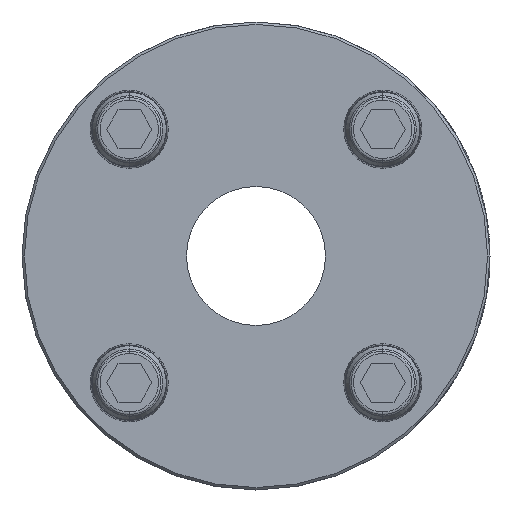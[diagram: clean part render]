
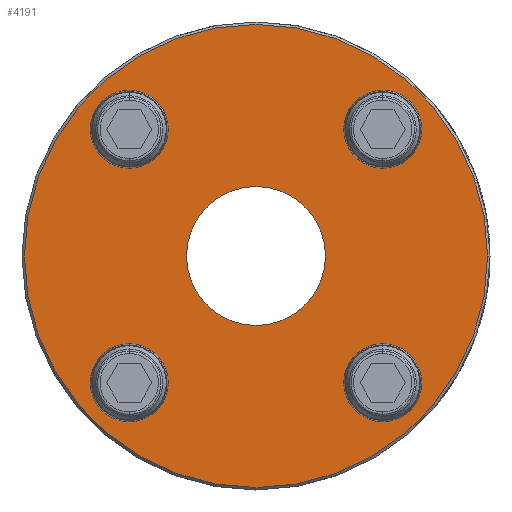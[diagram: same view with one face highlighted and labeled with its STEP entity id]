
A CAD part, front view. The second image highlights one B-rep face of the part: STEP entity #4191.
In plain terms, the highlighted planar face has unit normal (0, -1, 0).
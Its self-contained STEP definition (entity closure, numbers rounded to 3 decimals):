
#1=CARTESIAN_POINT('',(0.,0.,0.));
#2=DIRECTION('',(0.,-1.,0.));
#3=DIRECTION('',(1.,0.,0.));
#4=AXIS2_PLACEMENT_3D('',#1,#2,#3);
#6=CARTESIAN_POINT('',(0.,0.,0.));
#7=DIRECTION('',(0.,-1.,0.));
#8=DIRECTION('',(-1.,0.,0.));
#9=AXIS2_PLACEMENT_3D('',#6,#7,#8);
#11=CARTESIAN_POINT('',(0.,0.,0.));
#12=DIRECTION('',(0.,1.,0.));
#13=DIRECTION('',(1.,0.,0.));
#14=AXIS2_PLACEMENT_3D('',#11,#12,#13);
#16=CARTESIAN_POINT('',(0.,0.,0.));
#17=DIRECTION('',(0.,1.,0.));
#18=DIRECTION('',(-1.,0.,0.));
#19=AXIS2_PLACEMENT_3D('',#16,#17,#18);
#21=CARTESIAN_POINT('',(26.,0.,-26.));
#22=DIRECTION('',(0.,-1.,0.));
#23=DIRECTION('',(1.,0.,0.));
#24=AXIS2_PLACEMENT_3D('',#21,#22,#23);
#26=CARTESIAN_POINT('',(26.,0.,-26.));
#27=DIRECTION('',(0.,-1.,0.));
#28=DIRECTION('',(-1.,0.,0.));
#29=AXIS2_PLACEMENT_3D('',#26,#27,#28);
#31=CARTESIAN_POINT('',(-26.,0.,-26.));
#32=DIRECTION('',(0.,-1.,0.));
#33=DIRECTION('',(1.,0.,0.));
#34=AXIS2_PLACEMENT_3D('',#31,#32,#33);
#36=CARTESIAN_POINT('',(-26.,0.,-26.));
#37=DIRECTION('',(0.,-1.,0.));
#38=DIRECTION('',(-1.,0.,0.));
#39=AXIS2_PLACEMENT_3D('',#36,#37,#38);
#41=CARTESIAN_POINT('',(-26.,0.,26.));
#42=DIRECTION('',(0.,-1.,0.));
#43=DIRECTION('',(1.,0.,0.));
#44=AXIS2_PLACEMENT_3D('',#41,#42,#43);
#46=CARTESIAN_POINT('',(-26.,0.,26.));
#47=DIRECTION('',(0.,-1.,0.));
#48=DIRECTION('',(-1.,0.,0.));
#49=AXIS2_PLACEMENT_3D('',#46,#47,#48);
#51=CARTESIAN_POINT('',(26.,0.,26.));
#52=DIRECTION('',(0.,-1.,0.));
#53=DIRECTION('',(1.,0.,0.));
#54=AXIS2_PLACEMENT_3D('',#51,#52,#53);
#56=CARTESIAN_POINT('',(26.,0.,26.));
#57=DIRECTION('',(0.,-1.,0.));
#58=DIRECTION('',(-1.,0.,0.));
#59=AXIS2_PLACEMENT_3D('',#56,#57,#58);
#3492=CARTESIAN_POINT('',(-47.5,0.,0.));
#3493=VERTEX_POINT('',#3492);
#3494=CARTESIAN_POINT('',(47.5,0.,0.));
#3495=VERTEX_POINT('',#3494);
#4031=CARTESIAN_POINT('',(32.5,0.,-26.));
#4033=VERTEX_POINT('',#4031);
#4038=CARTESIAN_POINT('',(19.5,0.,-26.));
#4039=VERTEX_POINT('',#4038);
#4080=CARTESIAN_POINT('',(32.5,0.,26.));
#4081=VERTEX_POINT('',#4080);
#4082=CARTESIAN_POINT('',(19.5,0.,26.));
#4083=VERTEX_POINT('',#4082);
#4092=CARTESIAN_POINT('',(-19.5,0.,26.));
#4093=VERTEX_POINT('',#4092);
#4094=CARTESIAN_POINT('',(-32.5,0.,26.));
#4095=VERTEX_POINT('',#4094);
#4104=CARTESIAN_POINT('',(-19.5,0.,-26.));
#4105=VERTEX_POINT('',#4104);
#4106=CARTESIAN_POINT('',(-32.5,0.,-26.));
#4107=VERTEX_POINT('',#4106);
#4146=CARTESIAN_POINT('',(-14.25,0.,0.));
#4147=CARTESIAN_POINT('',(14.25,0.,0.));
#4148=VERTEX_POINT('',#4146);
#4149=VERTEX_POINT('',#4147);
#4150=CARTESIAN_POINT('',(0.,0.,0.));
#4151=DIRECTION('',(0.,-1.,0.));
#4152=DIRECTION('',(-1.,0.,0.));
#4153=AXIS2_PLACEMENT_3D('',#4150,#4151,#4152);
#4154=PLANE('',#4153);
#4156=ORIENTED_EDGE('',*,*,#4155,.T.);
#4158=ORIENTED_EDGE('',*,*,#4157,.T.);
#4159=EDGE_LOOP('',(#4156,#4158));
#4160=FACE_OUTER_BOUND('',#4159,.F.);
#4162=ORIENTED_EDGE('',*,*,#4161,.T.);
#4164=ORIENTED_EDGE('',*,*,#4163,.T.);
#4165=EDGE_LOOP('',(#4162,#4164));
#4166=FACE_BOUND('',#4165,.F.);
#4168=ORIENTED_EDGE('',*,*,#4167,.T.);
#4170=ORIENTED_EDGE('',*,*,#4169,.T.);
#4171=EDGE_LOOP('',(#4168,#4170));
#4172=FACE_BOUND('',#4171,.F.);
#4174=ORIENTED_EDGE('',*,*,#4173,.T.);
#4176=ORIENTED_EDGE('',*,*,#4175,.T.);
#4177=EDGE_LOOP('',(#4174,#4176));
#4178=FACE_BOUND('',#4177,.F.);
#4180=ORIENTED_EDGE('',*,*,#4179,.T.);
#4182=ORIENTED_EDGE('',*,*,#4181,.T.);
#4183=EDGE_LOOP('',(#4180,#4182));
#4184=FACE_BOUND('',#4183,.F.);
#4186=ORIENTED_EDGE('',*,*,#4185,.T.);
#4188=ORIENTED_EDGE('',*,*,#4187,.T.);
#4189=EDGE_LOOP('',(#4186,#4188));
#4190=FACE_BOUND('',#4189,.F.);
#4191=ADVANCED_FACE('',(#4160,#4166,#4172,#4178,#4184,#4190),#4154,.T.);
#5=CIRCLE('',#4,14.25);
#10=CIRCLE('',#9,14.25);
#15=CIRCLE('',#14,47.5);
#20=CIRCLE('',#19,47.5);
#25=CIRCLE('',#24,6.5);
#30=CIRCLE('',#29,6.5);
#35=CIRCLE('',#34,6.5);
#40=CIRCLE('',#39,6.5);
#45=CIRCLE('',#44,6.5);
#50=CIRCLE('',#49,6.5);
#55=CIRCLE('',#54,6.5);
#60=CIRCLE('',#59,6.5);
#4155=EDGE_CURVE('',#3495,#3493,#15,.T.);
#4157=EDGE_CURVE('',#3493,#3495,#20,.T.);
#4161=EDGE_CURVE('',#4149,#4148,#5,.T.);
#4163=EDGE_CURVE('',#4148,#4149,#10,.T.);
#4167=EDGE_CURVE('',#4033,#4039,#25,.T.);
#4169=EDGE_CURVE('',#4039,#4033,#30,.T.);
#4173=EDGE_CURVE('',#4105,#4107,#35,.T.);
#4175=EDGE_CURVE('',#4107,#4105,#40,.T.);
#4179=EDGE_CURVE('',#4093,#4095,#45,.T.);
#4181=EDGE_CURVE('',#4095,#4093,#50,.T.);
#4185=EDGE_CURVE('',#4081,#4083,#55,.T.);
#4187=EDGE_CURVE('',#4083,#4081,#60,.T.);
